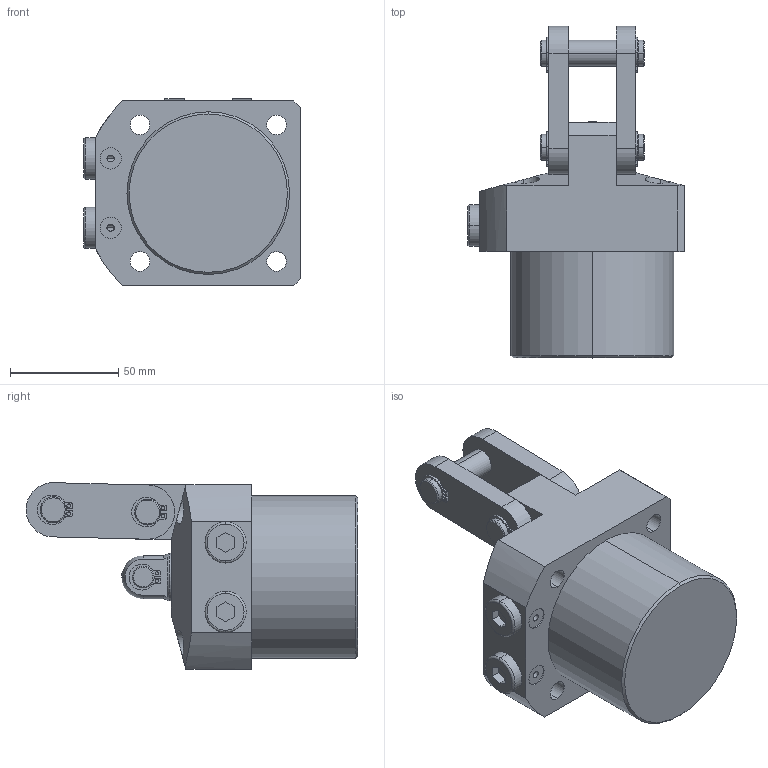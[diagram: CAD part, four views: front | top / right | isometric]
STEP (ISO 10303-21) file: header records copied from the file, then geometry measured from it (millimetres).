
FILE_DESCRIPTION (( 'STEP AP203' ), '1' );
FILE_NAME ('4171 621 R.STEP', '2017-11-25T08:41:21', ( '' ), ( '' ), 'SwSTEP 2.0', 'SolidWorks 2015', '' );
FILE_SCHEMA (( 'CONFIG_CONTROL_DESIGN' ));
Length unit declared in the file: millimetre
Products named in the file (8): PIN 2; LINK; (normal) external_is_IS 3075 NE- 10; (normal) external_is_IS 3075 NE- 12; 4171 621 R; BODY1_4171 621 R; PR; PIN 1
Assembly tree (13 placements, depth 2):
  4171 621 R
    BODY1_4171 621 R
    PR
    PIN 1
    PIN 2  x2
    LINK  x2
    (normal) external_is_IS 3075 NE- 10  x2
    (normal) external_is_IS 3075 NE- 12  x4
Bounding box: 100 x 152.98 x 86.05 mm (x, y, z)
Volume: 526797.2 mm3; surface area: 68464.8 mm2
Topology: 13 solids, 13 shells, 340 faces, 836 edges, 539 vertices
Faces by surface type: cylinder 173, plane 121, cone 40, torus 4, sphere 2
Entity records: 7618 total; most frequent: CARTESIAN_POINT 1291, DIRECTION 1196, ORIENTED_EDGE 1054, EDGE_CURVE 527, AXIS2_PLACEMENT_3D 467, VERTEX_POINT 338, EDGE_LOOP 265, VECTOR 262
